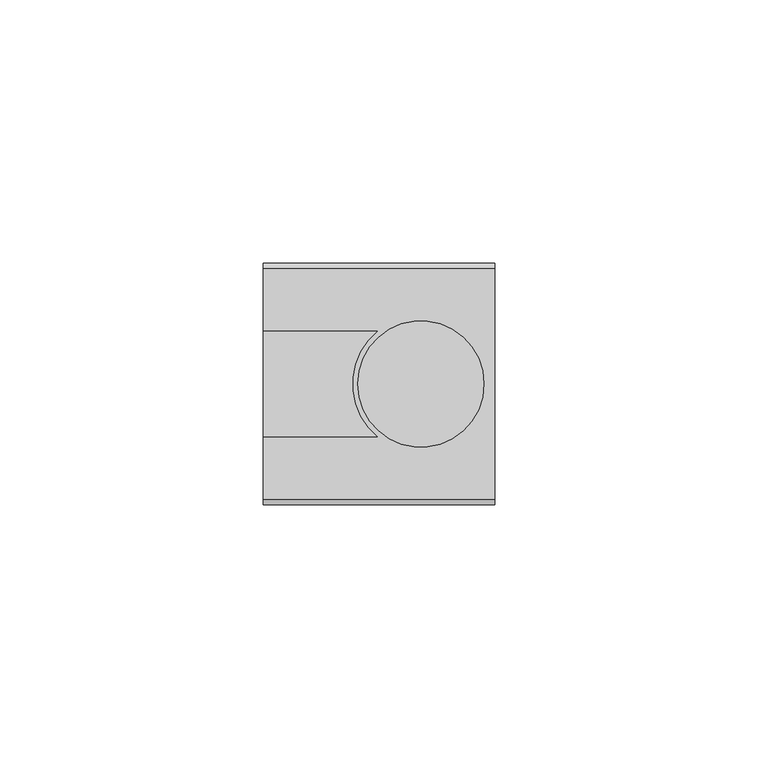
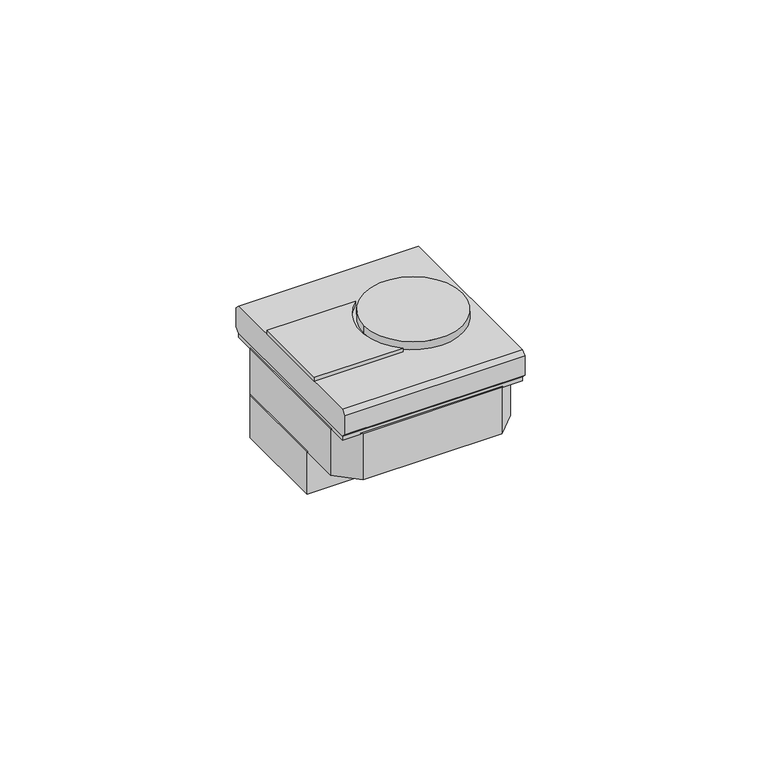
"""IFC4 building model written with IfcOpenShell, lengths in millimetres: proxy geometry, L4441 LI Termostato : L4441 LI Termostato."""

from ifc_helpers import new_model, si_unit, point, frame, frame_2d, origin, place, context, project, spatial, polyline, circle_curve, trimmed, segment, composite_curve, outline, extrude, source, transform, mapped, element, save


def electrical_fixtures_0906a398(model_context):
    return source(origin(), model_context, "Body", "SweptSolid", [
        extrude(outline(composite_curve([segment(polyline([(-0.3066239, -10.0), (-22.0, -10.0), (-22.0, 10.0), (-0.3066239, 10.0)]), True, "CONTINUOUS"), segment(trimmed(circle_curve(frame_2d((8.0, 0.0)), 13.0), [point((-0.3066239, 10.0))], [point((-0.3066239, -10.0))], True, "CARTESIAN"), True, "CONTINUOUS")], self_intersect=False)), frame((0.0, 0.0, 9.979899), z_axis=(0.0, 0.0, 1.0), x_axis=(1.0, 0.0, 0.0)), (0.0, 0.0, 1.0), 0.9812987),
        extrude(outline(composite_curve([segment(trimmed(circle_curve(frame_2d((8.0, 0.0)), 12.0), [point((-4.0, 0.0))], [point((20.0, 0.0))], False, "CARTESIAN"), True, "CONTINUOUS"), segment(trimmed(circle_curve(frame_2d((8.0, 0.0)), 12.0), [point((20.0, 0.0))], [point((-4.0, 0.0))], False, "CARTESIAN"), True, "CONTINUOUS")], self_intersect=False)), frame((0.0, 0.0, 9.979899), z_axis=(0.0, 0.0, 1.0), x_axis=(1.0, 0.0, 0.0)), (0.0, 0.0, 1.0), 2.020101),
        extrude(outline(polyline([(-22.0, 3.0), (-22.9899495, 3.9899495), (-22.9899495, 8.9899495), (-22.0, 9.979899), (22.0, 9.979899), (22.9899495, 8.9899495), (22.9899495, 3.9899495), (22.0, 3.0), (-22.0, 3.0)])), frame((-22.0, 0.0, 0.0), z_axis=(1.0, 0.0, 0.0), x_axis=(0.0, 1.0, 0.0)), (0.0, 0.0, 1.0), 44.0),
        extrude(outline(polyline([(-22.0, -7.0), (-22.0, 17.0), (-20.0, 19.0), (20.0, 19.0), (22.0, 17.0), (22.0, -7.0), (-22.0, -7.0)])), frame((0.0, 0.0, -21.0), z_axis=(0.0, 0.0, 1.0), x_axis=(1.0, 0.0, 0.0)), (0.0, 0.0, 1.0), 11.0),
        extrude(outline(polyline([(22.0, -17.0), (17.0, -22.0), (-17.0, -22.0), (-22.0, -17.0), (-22.0, 17.0), (-17.0, 22.0), (17.0, 22.0), (22.0, 17.0), (22.0, -17.0)])), frame((0.0, 0.0, -10.0), z_axis=(0.0, 0.0, 1.0), x_axis=(1.0, 0.0, 0.0)), (0.0, 0.0, 1.0), 12.0),
        extrude(outline(polyline([(22.0, -22.0), (-22.0, -22.0), (-22.0, 22.0), (22.0, 22.0), (22.0, -22.0)])), frame((0.0, 0.0, 2.0), z_axis=(0.0, 0.0, 1.0), x_axis=(1.0, 0.0, 0.0)), (0.0, 0.0, 1.0), 1.0),
    ])


if __name__ == "__main__":
    model = new_model("IFC4")
    model_context = context("Model", 3, world=origin())
    ifc_project = project(units=[si_unit("LENGTHUNIT", "METRE", prefix="MILLI")], contexts=[model_context])
    site = spatial("IfcSite", under=ifc_project)
    building = spatial("IfcBuilding", under=site)
    placement = place(None, origin())
    electrical_fixtures_shape = electrical_fixtures_0906a398(model_context)
    element("IfcBuildingElementProxy", 1, Name="L4441 LI Termostato : L4441 LI Termostato", ObjectType="L4441 LI Termostato : L4441 LI Termostato", at=placement, inside=building, context=model_context, shape_type="MappedRepresentation", body=[
        mapped(electrical_fixtures_shape, transform((0.0, 0.0, 0.0), x_axis=(1.0, 0.0, 0.0), y_axis=(0.0, 1.0, 0.0), z_axis=(0.0, 0.0, 1.0))),
    ])
    save(model, "model.ifc")
